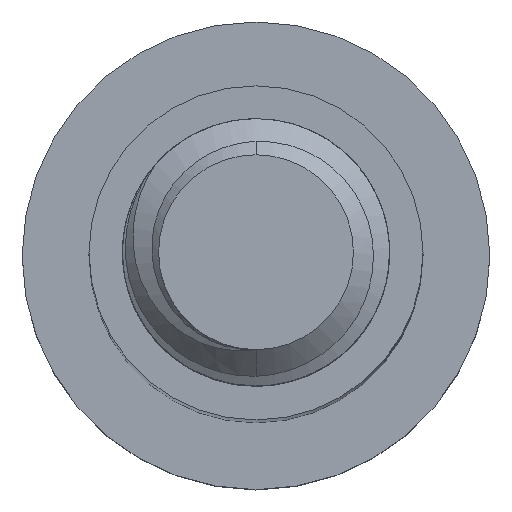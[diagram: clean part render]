
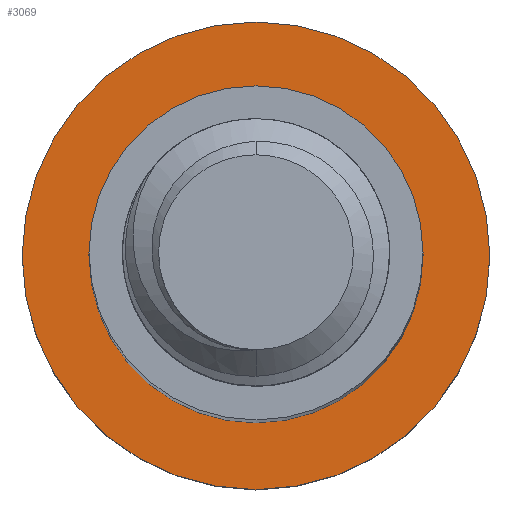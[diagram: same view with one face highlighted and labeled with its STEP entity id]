
A CAD part, top view. The second image highlights one B-rep face of the part: STEP entity #3069.
In plain terms, the highlighted planar face has unit normal (0, 0, 1).
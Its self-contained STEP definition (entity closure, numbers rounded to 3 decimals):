
#5 = DIRECTION ( 'NONE',  ( -1., 0., 0. ) ) ;
#40 = CARTESIAN_POINT ( 'NONE',  ( 0., 0., -50. ) ) ;
#181 = ORIENTED_EDGE ( 'NONE', *, *, #2633, .F. ) ;
#186 = DIRECTION ( 'NONE',  ( -1., 0., 0. ) ) ;
#204 = CARTESIAN_POINT ( 'NONE',  ( 5., 0., -50. ) ) ;
#405 = DIRECTION ( 'NONE',  ( 0., 0., -1. ) ) ;
#703 = DIRECTION ( 'NONE',  ( -1., 0., 0. ) ) ;
#716 = EDGE_CURVE ( 'NONE', #785, #3740, #3430, .T. ) ;
#773 = CARTESIAN_POINT ( 'NONE',  ( 0., 0., -50. ) ) ;
#785 = VERTEX_POINT ( 'NONE', #988 ) ;
#835 = CIRCLE ( 'NONE', #3162, 7. ) ;
#864 = VERTEX_POINT ( 'NONE', #883 ) ;
#883 = CARTESIAN_POINT ( 'NONE',  ( -7., 0., -50. ) ) ;
#988 = CARTESIAN_POINT ( 'NONE',  ( -5., 0., -50. ) ) ;
#1300 = CARTESIAN_POINT ( 'NONE',  ( 0., 0., -50. ) ) ;
#1643 = CARTESIAN_POINT ( 'NONE',  ( 0., 0., -50. ) ) ;
#1791 = VERTEX_POINT ( 'NONE', #2992 ) ;
#1798 = DIRECTION ( 'NONE',  ( 0., 0., -1. ) ) ;
#1808 = EDGE_CURVE ( 'NONE', #3740, #785, #3912, .T. ) ;
#1938 = AXIS2_PLACEMENT_3D ( 'NONE', #1643, #3270, #3939 ) ;
#2003 = AXIS2_PLACEMENT_3D ( 'NONE', #3969, #2952, #5 ) ;
#2007 = CIRCLE ( 'NONE', #1938, 7. ) ;
#2288 = EDGE_LOOP ( 'NONE', ( #3914, #2600 ) ) ;
#2396 = EDGE_CURVE ( 'NONE', #1791, #864, #835, .T. ) ;
#2600 = ORIENTED_EDGE ( 'NONE', *, *, #1808, .T. ) ;
#2633 = EDGE_CURVE ( 'NONE', #864, #1791, #2007, .T. ) ;
#2716 = DIRECTION ( 'NONE',  ( -1., 0., 0. ) ) ;
#2952 = DIRECTION ( 'NONE',  ( 0., 0., -1. ) ) ;
#2992 = CARTESIAN_POINT ( 'NONE',  ( 7., 0., -50. ) ) ;
#3039 = AXIS2_PLACEMENT_3D ( 'NONE', #1300, #4205, #703 ) ;
#3069 = ADVANCED_FACE ( 'NONE', ( #3544, #3936 ), #4227, .F. ) ;
#3140 = EDGE_LOOP ( 'NONE', ( #3310, #181 ) ) ;
#3162 = AXIS2_PLACEMENT_3D ( 'NONE', #773, #1798, #186 ) ;
#3270 = DIRECTION ( 'NONE',  ( 0., 0., -1. ) ) ;
#3296 = AXIS2_PLACEMENT_3D ( 'NONE', #40, #405, #2716 ) ;
#3310 = ORIENTED_EDGE ( 'NONE', *, *, #2396, .F. ) ;
#3430 = CIRCLE ( 'NONE', #2003, 5. ) ;
#3544 = FACE_BOUND ( 'NONE', #2288, .T. ) ;
#3740 = VERTEX_POINT ( 'NONE', #204 ) ;
#3912 = CIRCLE ( 'NONE', #3296, 5. ) ;
#3914 = ORIENTED_EDGE ( 'NONE', *, *, #716, .T. ) ;
#3936 = FACE_OUTER_BOUND ( 'NONE', #3140, .T. ) ;
#3939 = DIRECTION ( 'NONE',  ( -1., 0., 0. ) ) ;
#3969 = CARTESIAN_POINT ( 'NONE',  ( 0., 0., -50. ) ) ;
#4205 = DIRECTION ( 'NONE',  ( 0., 0., -1. ) ) ;
#4227 = PLANE ( 'NONE',  #3039 ) ;
